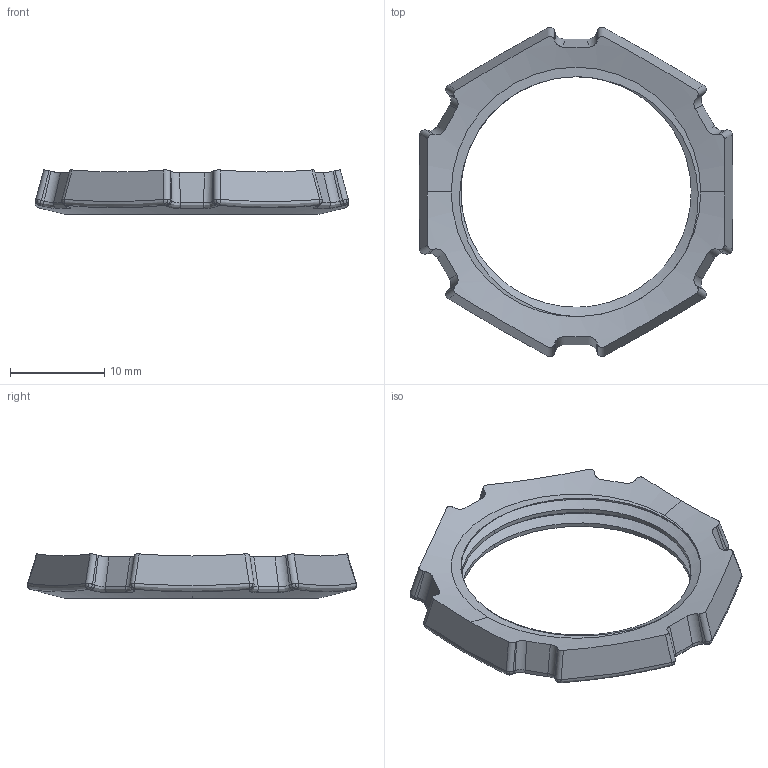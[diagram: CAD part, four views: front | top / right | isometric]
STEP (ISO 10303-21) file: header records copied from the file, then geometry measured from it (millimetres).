
FILE_DESCRIPTION(('Creo Elements/Direct Modeling STEP Export'),'2;1');
FILE_NAME('LN-CTG22M.stp','2015-04-14T13:20:50',(''),(''),'PTC Creo Elements/Direct Modeling STEP processor for AP214 (Solid Model)','PTC Creo Elements/Direct Modeling 19.0A 04-Oct-2014 (C) Parametric Technology GmbH','');
FILE_SCHEMA(('AUTOMOTIVE_DESIGN { 1 0 10303 214 1 1 1 1 }'));
Length unit declared in the file: millimetre
Products named in the file (2): LN-CTG22M
Assembly tree (1 placements, depth 2):
  LN-CTG22M
    LN-CTG22M
Bounding box: 33.24 x 34.9 x 4.69 mm (x, y, z)
Volume: 1347.2 mm3; surface area: 1633.7 mm2
Topology: 1 solids, 1 shells, 139 faces, 353 edges, 215 vertices
Faces by surface type: bspline 74, cylinder 35, plane 26, cone 4
Entity records: 10028 total; most frequent: CARTESIAN_POINT 7552, ORIENTED_EDGE 706, EDGE_CURVE 353, VERTEX_POINT 215, DIRECTION 200, B_SPLINE_CURVE_WITH_KNOTS 194, EDGE_LOOP 140, FACE_OUTER_BOUND 139
